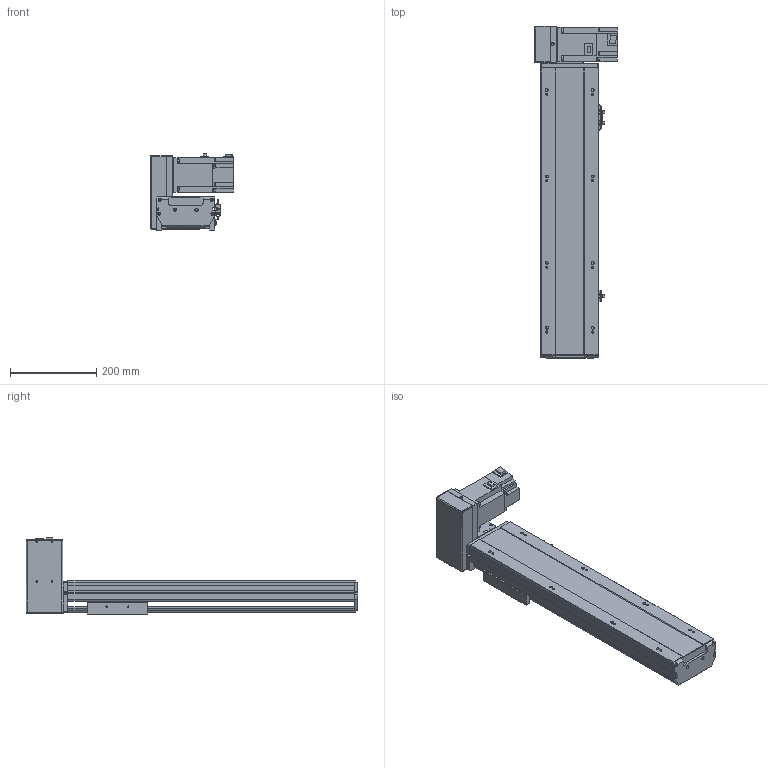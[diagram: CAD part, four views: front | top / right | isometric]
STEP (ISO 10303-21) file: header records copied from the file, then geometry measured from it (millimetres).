
FILE_DESCRIPTION (( 'STEP AP203' ), '1' );
FILE_NAME ('8.STEP', '2020-10-27T10:16:03', ( '' ), ( '' ), 'SwSTEP 2.0', 'SolidWorks 2016', '' );
FILE_SCHEMA (( 'CONFIG_CONTROL_DESIGN' ));
Length unit declared in the file: millimetre
Products named in the file (12): BTB14-LD-菁釱; BTB14-LD-06; 8; FS-33-T75; BTB14-LD-24; BTB14-LD-01; BTB14-LD-23; BTB14-LD-04; FS-07-T75; FS-08-T75; BTB14-LD-HZ; BTB14-LD-T75
Assembly tree (14 placements, depth 2):
  8
    BTB14-LD-菁釱
    BTB14-LD-01
    BTB14-LD-04  x3
    BTB14-LD-06
    BTB14-LD-23  x2
    BTB14-LD-24
    BTB14-LD-HZ
    FS-07-T75
    FS-08-T75
    FS-33-T75
    BTB14-LD-T75
Bounding box: 191.8 x 768 x 176.1 mm (x, y, z)
Volume: 4296011.6 mm3; surface area: 883809.5 mm2
Topology: 24 solids, 24 shells, 1750 faces, 4603 edges, 2962 vertices
Faces by surface type: plane 1033, cylinder 466, bspline 127, cone 112, torus 12
Entity records: 51668 total; most frequent: CARTESIAN_POINT 16217, ORIENTED_EDGE 7152, DIRECTION 6834, EDGE_CURVE 3576, LINE 2444, VECTOR 2444, VERTEX_POINT 2340, AXIS2_PLACEMENT_3D 2195
